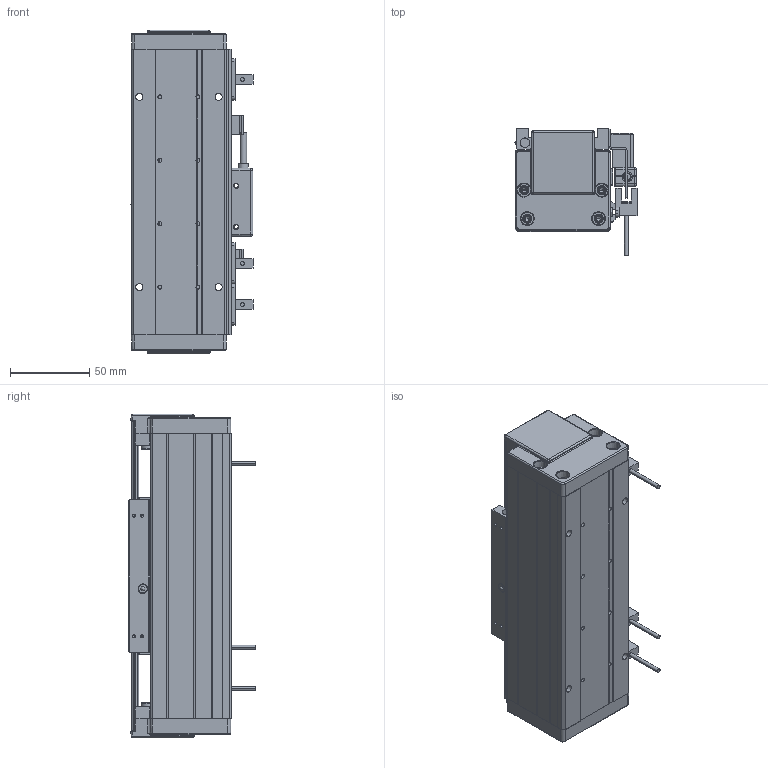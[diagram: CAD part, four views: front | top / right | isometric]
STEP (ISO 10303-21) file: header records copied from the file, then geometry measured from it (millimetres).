
FILE_DESCRIPTION (( 'STEP AP203' ), '1' );
FILE_NAME ('DA-A60-B1-T40-C010-0.2 眻盄萇儂.STEP', '2025-08-13T01:49:52', ( '' ), ( '' ), 'SwSTEP 2.0', 'SolidWorks 2019', '' );
FILE_SCHEMA (( 'CONFIG_CONTROL_DESIGN' ));
Length unit declared in the file: millimetre
Products named in the file (21): 复件 纯铜油杯 6x6mm^AU60-V 滚珠滑台; DA60-T-002-00  裔啣; 葩璃 DA60-HK-DP-01 結え^AU60-V 幗紩賑怢; 复件 XD-U-02  磁栅尺^DA-A60-B1-T-C010-0.2-N 直线电机; 葩璃 PM-T45^DA-A60-B1-T-C010-0.2-N 眻盄萇儂; DA60-B1-HT-B-03 賑雄怢啣; 葩璃 AKM01-W030-TRL^DA-A60-B1-T-C010-0.2-N 眻盄萇儂; 复件 DA60-GT-T-00 底座钢轨^AU60-L 底座导轨; 复件 DA60-DMT-DTJ-00 读数头支架^DA-A60-B1-T-C010-0.2-N 直线电机; DA60-YT-B1-HT-B-01 珨极趙賑雄怢啣; 葩璃 DMT-010 1米m 0.2M^DA-A60-B1-T-C010-0.2-N 眻盄萇儂; AU60-L 菁釱絳寢; 复件 DA60-B1-GT-00 滑块钢轨^DA60-YT-B1-HT-B-01 一体化滑动台板; 复件 BAKM01-W030-C1-TP-0.2 直线电机动子^DA-A60-B1-T-C010-0.2-N 直线电机; AU60-V 幗紩賑怢; 复件 DA60-DG-H-N-00 端盖^DA-A60-B1-T-C010-0.2-N 直线电机; DA-A60-B1-T40-C010-0.2 眻盄萇儂; 复件 DA-A60-GYP-DMT-00 光电感应片^DA-A60-B1-T-C010-0.2-N 直线电机(默认); 复件 DA60-XJ-00 橡胶挡块^DA-A60-B1-T-C010-0.2-N 直线电机; 复件 六角薄螺母 M3^DA-A60-B1-T-C010-0.2-N 直线电机(GB_FASTENER_NUT_STNAB M3-C); IU-AU60-L-00 菁釱(180)
Assembly tree (33 placements, depth 4):
  DA-A60-B1-T40-C010-0.2 眻盄萇儂
    AU60-L 菁釱絳寢
      IU-AU60-L-00 菁釱(180)
      复件 DA60-GT-T-00 底座钢轨^AU60-L 底座导轨  x2
    AU60-V 幗紩賑怢
      DA60-YT-B1-HT-B-01 珨极趙賑雄怢啣
        DA60-B1-HT-B-03 賑雄怢啣
        复件 DA60-B1-GT-00 滑块钢轨^DA60-YT-B1-HT-B-01 一体化滑动台板  x2
      葩璃 DA60-HK-DP-01 結え^AU60-V 幗紩賑怢  x2
      复件 纯铜油杯 6x6mm^AU60-V 滚珠滑台
    复件 DA-A60-GYP-DMT-00 光电感应片^DA-A60-B1-T-C010-0.2-N 直线电机(默认)  x2
    复件 DA60-DMT-DTJ-00 读数头支架^DA-A60-B1-T-C010-0.2-N 直线电机
    葩璃 DMT-010 1米m 0.2M^DA-A60-B1-T-C010-0.2-N 眻盄萇儂
    复件 BAKM01-W030-C1-TP-0.2 直线电机动子^DA-A60-B1-T-C010-0.2-N 直线电机
    复件 DA60-XJ-00 橡胶挡块^DA-A60-B1-T-C010-0.2-N 直线电机  x2
    复件 DA60-DG-H-N-00 端盖^DA-A60-B1-T-C010-0.2-N 直线电机  x2
    DA60-T-002-00  裔啣
    葩璃 AKM01-W030-TRL^DA-A60-B1-T-C010-0.2-N 眻盄萇儂
    葩璃 PM-T45^DA-A60-B1-T-C010-0.2-N 眻盄萇儂  x3
    复件 XD-U-02  磁栅尺^DA-A60-B1-T-C010-0.2-N 直线电机
    复件 六角薄螺母 M3^DA-A60-B1-T-C010-0.2-N 直线电机(GB_FASTENER_NUT_STNAB M3-C)  x6
Bounding box: 76.95 x 80 x 204 mm (x, y, z)
Volume: 533815.3 mm3; surface area: 208763.5 mm2
Topology: 35 solids, 37 shells, 2539 faces, 6264 edges, 3733 vertices
Faces by surface type: cylinder 886, plane 819, bspline 577, cone 248, torus 8, sphere 1
Entity records: 57941 total; most frequent: CARTESIAN_POINT 19242, ORIENTED_EDGE 7784, DIRECTION 7213, EDGE_CURVE 3892, AXIS2_PLACEMENT_3D 2614, VERTEX_POINT 2404, LINE 1985, VECTOR 1985
